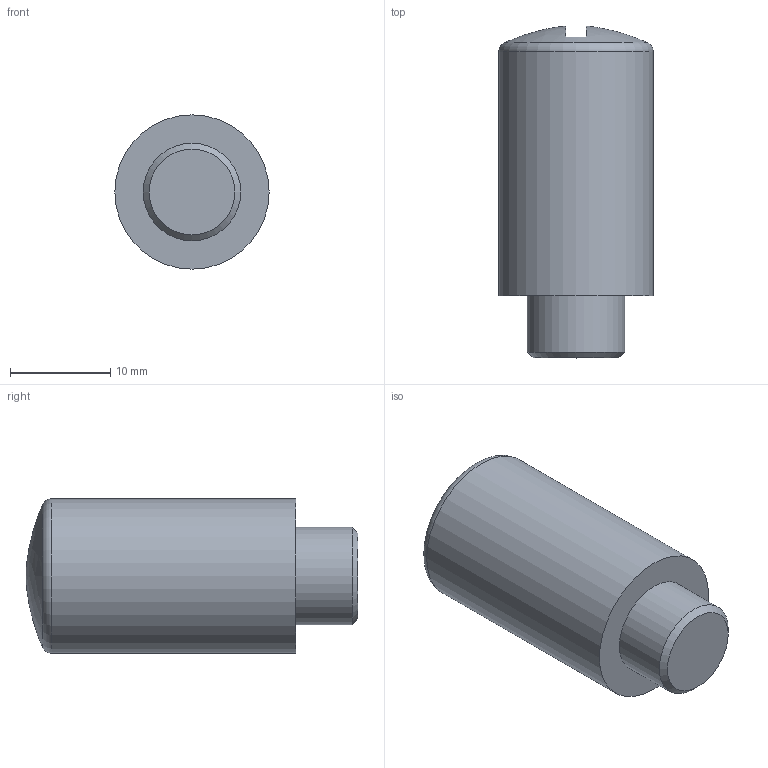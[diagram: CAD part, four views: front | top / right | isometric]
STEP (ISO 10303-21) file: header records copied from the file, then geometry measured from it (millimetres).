
FILE_DESCRIPTION( ( 'STEP AP214' ), '1' );
FILE_NAME( 'p:/temp/worker_9/temp/exporttempdir_4832_107_zBAaj/format_0/W0970530062.stp', '2021-12-09T08:31:19', ( 'License CC BY-ND 4.0' ), ( 'CADENAS' ), ' ', 'PARTsolutions', ' ' );
FILE_SCHEMA( ( 'AUTOMOTIVE_DESIGN { 1 0 10303 214 1 1 1 1 }' ) );
Length unit declared in the file: millimetre
Products named in the file (1): _W0970530062
Bounding box: 15.4 x 33.12 x 15.4 mm (x, y, z)
Volume: 5267.9 mm3; surface area: 1780.5 mm2
Topology: 1 solids, 1 shells, 10 faces, 18 edges, 11 vertices
Faces by surface type: plane 5, cylinder 2, cone 1, torus 1, bspline 1
Full cylindrical faces by diameter (mm): 9.728 x1, 15.4 x1
Entity records: 361 total; most frequent: CARTESIAN_POINT 94, DIRECTION 38, ORIENTED_EDGE 24, AXIS2_PLACEMENT_3D 18, EDGE_LOOP 16, FACE_OUTER_BOUND 14, EDGE_CURVE 12, STYLED_ITEM 10
